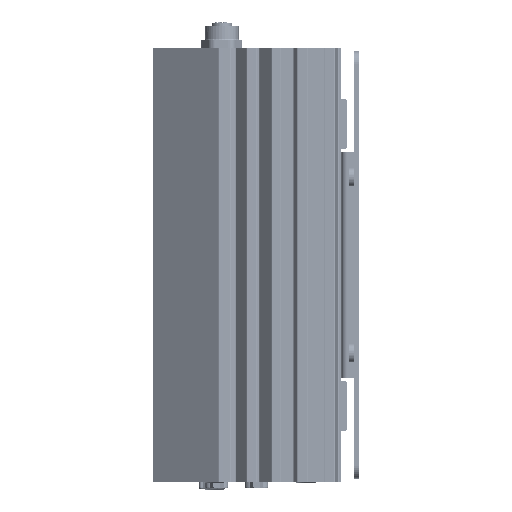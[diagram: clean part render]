
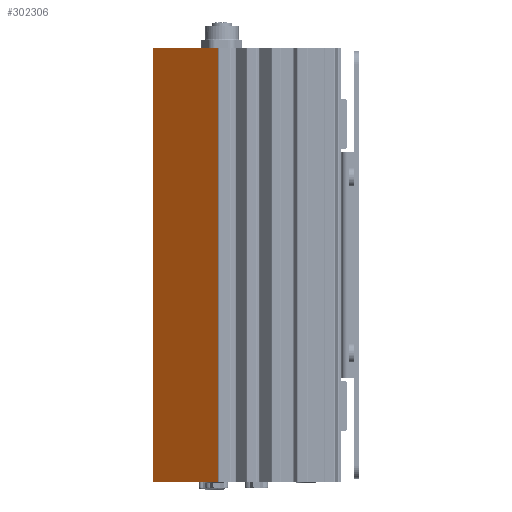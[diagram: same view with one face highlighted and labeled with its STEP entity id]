
A CAD part, left-side view. The second image highlights one B-rep face of the part: STEP entity #302306.
In plain terms, the highlighted planar face has unit normal (-0.819, 0.574, 0).
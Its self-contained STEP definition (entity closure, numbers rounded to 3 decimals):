
#52642 = CARTESIAN_POINT ( 'NONE',  ( -120.999, 48.992, -86.5 ) ) ;
#54719 = CARTESIAN_POINT ( 'NONE',  ( -122.022, 47.53, -86.5 ) ) ;
#71094 = DIRECTION ( 'NONE',  ( 0., 0., -1. ) ) ;
#74335 = CARTESIAN_POINT ( 'NONE',  ( -120.999, 48.992, 86.5 ) ) ;
#103043 = VECTOR ( 'NONE', #122139, 1000. ) ;
#114215 = VECTOR ( 'NONE', #528102, 1000. ) ;
#122139 = DIRECTION ( 'NONE',  ( 0., 0., 1. ) ) ;
#124737 = VECTOR ( 'NONE', #499878, 1000. ) ;
#133921 = CARTESIAN_POINT ( 'NONE',  ( -120.999, 48.992, 86.5 ) ) ;
#161263 = PLANE ( 'NONE',  #472913 ) ;
#167085 = ORIENTED_EDGE ( 'NONE', *, *, #458304, .T. ) ;
#207828 = CARTESIAN_POINT ( 'NONE',  ( -102.947, 74.772, -86.5 ) ) ;
#209039 = DIRECTION ( 'NONE',  ( 0.574, 0.819, 0. ) ) ;
#215520 = CARTESIAN_POINT ( 'NONE',  ( -122.022, 47.53, 86.5 ) ) ;
#254533 = CARTESIAN_POINT ( 'NONE',  ( -102.947, 74.772, 86.5 ) ) ;
#255021 = VERTEX_POINT ( 'NONE', #254533 ) ;
#302306 = ADVANCED_FACE ( 'NONE', ( #459408 ), #161263, .F. ) ;
#303833 = VECTOR ( 'NONE', #71094, 1000. ) ;
#322457 = ORIENTED_EDGE ( 'NONE', *, *, #613126, .T. ) ;
#350193 = CARTESIAN_POINT ( 'NONE',  ( -122.022, 47.53, 86.5 ) ) ;
#351959 = LINE ( 'NONE', #54719, #114215 ) ;
#355602 = CARTESIAN_POINT ( 'NONE',  ( -102.947, 74.772, 86.5 ) ) ;
#355694 = LINE ( 'NONE', #74335, #103043 ) ;
#362463 = LINE ( 'NONE', #215520, #124737 ) ;
#366268 = VERTEX_POINT ( 'NONE', #52642 ) ;
#415325 = LINE ( 'NONE', #355602, #303833 ) ;
#435313 = ORIENTED_EDGE ( 'NONE', *, *, #524717, .F. ) ;
#458304 = EDGE_CURVE ( 'NONE', #366268, #555719, #355694, .T. ) ;
#459408 = FACE_OUTER_BOUND ( 'NONE', #611381, .T. ) ;
#460086 = ORIENTED_EDGE ( 'NONE', *, *, #467121, .T. ) ;
#467121 = EDGE_CURVE ( 'NONE', #255021, #522201, #415325, .T. ) ;
#472913 = AXIS2_PLACEMENT_3D ( 'NONE', #350193, #493444, #209039 ) ;
#493444 = DIRECTION ( 'NONE',  ( 0.819, -0.574, 0. ) ) ;
#499878 = DIRECTION ( 'NONE',  ( -0.574, -0.819, 0. ) ) ;
#522201 = VERTEX_POINT ( 'NONE', #207828 ) ;
#524717 = EDGE_CURVE ( 'NONE', #255021, #555719, #362463, .T. ) ;
#528102 = DIRECTION ( 'NONE',  ( -0.574, -0.819, 0. ) ) ;
#555719 = VERTEX_POINT ( 'NONE', #133921 ) ;
#611381 = EDGE_LOOP ( 'NONE', ( #322457, #167085, #435313, #460086 ) ) ;
#613126 = EDGE_CURVE ( 'NONE', #522201, #366268, #351959, .T. ) ;
